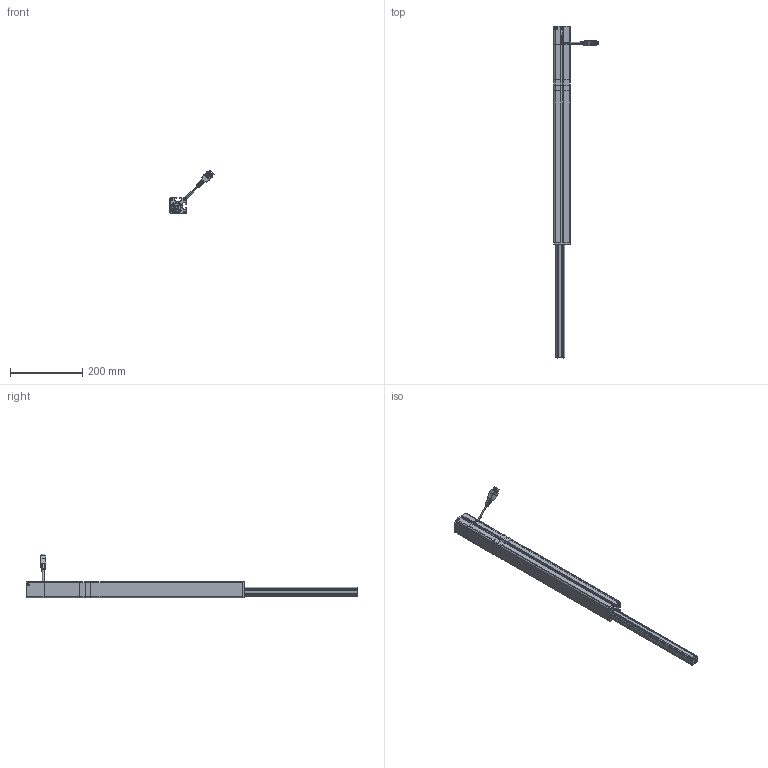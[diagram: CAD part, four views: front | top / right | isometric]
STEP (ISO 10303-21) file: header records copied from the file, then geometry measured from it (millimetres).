
FILE_DESCRIPTION (( 'STEP AP214' ), '1' );
FILE_NAME ('T045B300617GGG24_ausgefahren.STEP', '2024-07-18T08:43:36', ( '' ), ( '' ), 'SwSTEP 2.0', 'SolidWorks 2021', '' );
FILE_SCHEMA (( 'AUTOMOTIVE_DESIGN' ));
Length unit declared in the file: millimetre
Products named in the file (14): Gewindestift DIN 913 - M5 x 12_DIN 913 - M5 x 12-N - 45H; Kopie von vergossene Zugentlastung für Molex-Stecker 39-01-2080^Kopie von EZ02252_EZ03333; EZ02930_ohne Flansch; T045B300617GGG24_ausgefahren; DIN 912 M5 x 180 --- 22N - 8.8_DIN 912 M5 x 180 --- 22N - 8.8; Kopie von EZ02252^EZ03333_Einbau-Version; EZ03446_L„nge_ 419mm; Kopie von MOLEX - 39-01-2080 - Buchsengehäuse 8-pol.^Kopie von EZ02252_EZ03333; EZ03446_L„nge_ 98mm; Kopie von UL-Kabel Mantel sw EZ02252^Kopie von EZ02252_EZ03333_Einbau-Version-kurz; EZ03335; EZ02933_L„nge_ 419mm; Gewindeeinsatz-302200050110; EZ02936-Stern
Assembly tree (18 placements, depth 3):
  T045B300617GGG24_ausgefahren
    EZ03446_L„nge_ 98mm
    EZ03446_L„nge_ 419mm
    EZ02933_L„nge_ 419mm
    EZ02930_ohne Flansch
    EZ03335  x2
    EZ02936-Stern
    Gewindeeinsatz-302200050110  x2
    DIN 912 M5 x 180 --- 22N - 8.8_DIN 912 M5 x 180 --- 22N - 8.8  x2
    Gewindestift DIN 913 - M5 x 12_DIN 913 - M5 x 12-N - 45H  x3
    Kopie von EZ02252^EZ03333_Einbau-Version
      Kopie von UL-Kabel Mantel sw EZ02252^Kopie von EZ02252_EZ03333_Einbau-Version-kurz
      Kopie von MOLEX - 39-01-2080 - Buchsengehäuse 8-pol.^Kopie von EZ02252_EZ03333
      Kopie von vergossene Zugentlastung für Molex-Stecker 39-01-2080^Kopie von EZ02252_EZ03333
Bounding box: 121.57 x 917 x 121.43 mm (x, y, z)
Volume: 591278.8 mm3; surface area: 394566.7 mm2
Topology: 17 solids, 17 shells, 3190 faces, 8271 edges, 5132 vertices
Faces by surface type: cylinder 1155, plane 1028, bspline 607, cone 400
Entity records: 124243 total; most frequent: CARTESIAN_POINT 30290, ORIENTED_EDGE 14004, DIRECTION 12886, EDGE_CURVE 7002, AXIS2_PLACEMENT_3D 4806, VERTEX_POINT 4376, VECTOR 3274, LINE 3274
